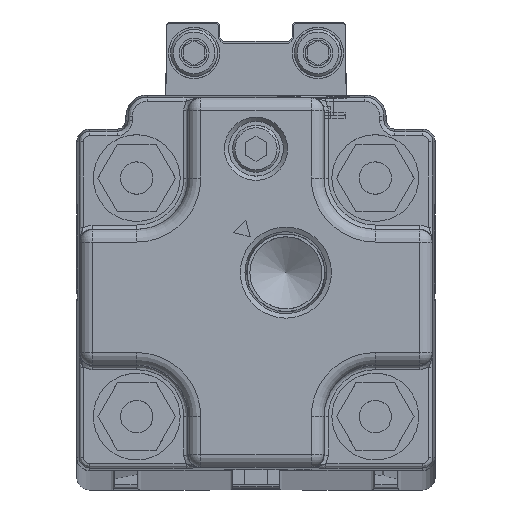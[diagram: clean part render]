
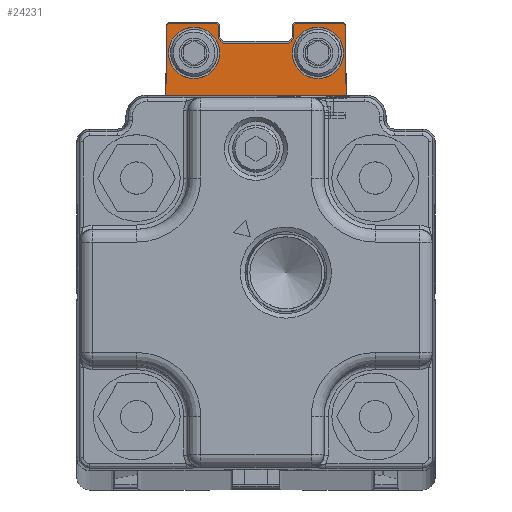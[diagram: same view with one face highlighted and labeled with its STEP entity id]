
A CAD part, top view. The second image highlights one B-rep face of the part: STEP entity #24231.
In plain terms, the highlighted planar face has unit normal (0, 0, 1).
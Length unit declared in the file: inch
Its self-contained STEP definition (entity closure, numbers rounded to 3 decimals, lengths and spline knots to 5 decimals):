
#328 = VECTOR ( 'NONE', #7700, 39.37008 ) ;
#692 = VECTOR ( 'NONE', #1107, 39.37008 ) ;
#1107 = DIRECTION ( 'NONE',  ( -1., 0., 0. ) ) ;
#1412 = VERTEX_POINT ( 'NONE', #11570 ) ;
#1528 = DIRECTION ( 'NONE',  ( 0., 1., 0. ) ) ;
#1633 = CIRCLE ( 'NONE', #4540, 0.11811 ) ;
#1687 = ORIENTED_EDGE ( 'NONE', *, *, #2032, .T. ) ;
#1725 = EDGE_CURVE ( 'NONE', #11870, #16494, #24809, .T. ) ;
#1762 = CARTESIAN_POINT ( 'NONE',  ( -0.41339, 1.10709, 2.22441 ) ) ;
#1767 = CARTESIAN_POINT ( 'NONE',  ( 0.42001, 0.70803, 2.22441 ) ) ;
#1939 = CARTESIAN_POINT ( 'NONE',  ( -0.15157, 1.02441, 2.22441 ) ) ;
#1973 = DIRECTION ( 'NONE',  ( 0., 1., 0. ) ) ;
#1985 = FACE_BOUND ( 'NONE', #24879, .T. ) ;
#2032 = EDGE_CURVE ( 'NONE', #19159, #8237, #14730, .T. ) ;
#2219 = VECTOR ( 'NONE', #5500, 39.37008 ) ;
#2251 = EDGE_CURVE ( 'NONE', #12145, #9565, #4001, .T. ) ;
#2396 = CARTESIAN_POINT ( 'NONE',  ( -0.17126, 1.10709, 2.22441 ) ) ;
#3063 = LINE ( 'NONE', #9270, #692 ) ;
#3098 = VERTEX_POINT ( 'NONE', #21838 ) ;
#3142 = DIRECTION ( 'NONE',  ( 1., 0., 0. ) ) ;
#3727 = VERTEX_POINT ( 'NONE', #15053 ) ;
#3804 = EDGE_CURVE ( 'NONE', #8237, #12145, #3063, .T. ) ;
#3810 = CARTESIAN_POINT ( 'NONE',  ( -0.40354, 1.11693, 2.22441 ) ) ;
#4001 = LINE ( 'NONE', #19870, #10480 ) ;
#4052 = CARTESIAN_POINT ( 'NONE',  ( 0.43307, 0.70853, 2.22441 ) ) ;
#4446 = EDGE_CURVE ( 'NONE', #8918, #19159, #24750, .T. ) ;
#4457 = VERTEX_POINT ( 'NONE', #17030 ) ;
#4540 = AXIS2_PLACEMENT_3D ( 'NONE', #24667, #22755, #3142 ) ;
#4580 = DIRECTION ( 'NONE',  ( 0.707, 0.707, 0. ) ) ;
#4720 = ORIENTED_EDGE ( 'NONE', *, *, #14347, .F. ) ;
#4753 = EDGE_LOOP ( 'NONE', ( #10988 ) ) ;
#5500 = DIRECTION ( 'NONE',  ( 0.707, -0.707, 0. ) ) ;
#5776 = VECTOR ( 'NONE', #23435, 39.37008 ) ;
#6088 = CARTESIAN_POINT ( 'NONE',  ( 0.43307, 1.11693, 2.22441 ) ) ;
#6154 = DIRECTION ( 'NONE',  ( -0.707, 0.707, 0. ) ) ;
#6278 = DIRECTION ( 'NONE',  ( 0.038, 0.999, 0. ) ) ;
#6377 = PLANE ( 'NONE',  #10316 ) ;
#6504 = EDGE_CURVE ( 'NONE', #24049, #20275, #19448, .T. ) ;
#7009 = CARTESIAN_POINT ( 'NONE',  ( 0.17126, 1.10709, 2.22441 ) ) ;
#7013 = EDGE_CURVE ( 'NONE', #20152, #20152, #15620, .T. ) ;
#7149 = VECTOR ( 'NONE', #6278, 39.37008 ) ;
#7161 = CARTESIAN_POINT ( 'NONE',  ( 0.17126, 1.04409, 2.22441 ) ) ;
#7393 = EDGE_CURVE ( 'NONE', #17120, #3727, #12195, .T. ) ;
#7566 = LINE ( 'NONE', #11320, #2219 ) ;
#7572 = CARTESIAN_POINT ( 'NONE',  ( -0.28543, 0.97913, 2.22441 ) ) ;
#7577 = CARTESIAN_POINT ( 'NONE',  ( 0.40354, 1.11693, 2.22441 ) ) ;
#7681 = CARTESIAN_POINT ( 'NONE',  ( 0.41339, 1.10709, 2.22441 ) ) ;
#7700 = DIRECTION ( 'NONE',  ( -1., 0., 0. ) ) ;
#7751 = DIRECTION ( 'NONE',  ( -0.707, -0.707, 0. ) ) ;
#7968 = LINE ( 'NONE', #1767, #10128 ) ;
#8237 = VERTEX_POINT ( 'NONE', #7577 ) ;
#8249 = ORIENTED_EDGE ( 'NONE', *, *, #7393, .F. ) ;
#8482 = LINE ( 'NONE', #2396, #12904 ) ;
#8918 = VERTEX_POINT ( 'NONE', #16970 ) ;
#8944 = DIRECTION ( 'NONE',  ( -0.707, 0.707, 0. ) ) ;
#9270 = CARTESIAN_POINT ( 'NONE',  ( 0.43307, 1.11693, 2.22441 ) ) ;
#9381 = DIRECTION ( 'NONE',  ( 1., 0., 0. ) ) ;
#9470 = DIRECTION ( 'NONE',  ( 0., 1., 0. ) ) ;
#9475 = VECTOR ( 'NONE', #14243, 39.37008 ) ;
#9513 = DIRECTION ( 'NONE',  ( 0., 0., 1. ) ) ;
#9565 = VERTEX_POINT ( 'NONE', #7009 ) ;
#9833 = DIRECTION ( 'NONE',  ( 1., 0., 0. ) ) ;
#9972 = CARTESIAN_POINT ( 'NONE',  ( -0.17126, 1.10709, 2.22441 ) ) ;
#10028 = CARTESIAN_POINT ( 'NONE',  ( 0.43307, 0.70853, 2.22441 ) ) ;
#10093 = ORIENTED_EDGE ( 'NONE', *, *, #2251, .T. ) ;
#10128 = VECTOR ( 'NONE', #17510, 39.37008 ) ;
#10165 = CARTESIAN_POINT ( 'NONE',  ( 0.15157, 1.02441, 2.22441 ) ) ;
#10285 = CARTESIAN_POINT ( 'NONE',  ( -0.41874, 0.7412, 2.22441 ) ) ;
#10316 = AXIS2_PLACEMENT_3D ( 'NONE', #4052, #11805, #14237 ) ;
#10392 = FACE_BOUND ( 'NONE', #4753, .T. ) ;
#10480 = VECTOR ( 'NONE', #7751, 39.37008 ) ;
#10783 = EDGE_CURVE ( 'NONE', #16609, #3098, #24314, .T. ) ;
#10988 = ORIENTED_EDGE ( 'NONE', *, *, #24376, .F. ) ;
#11320 = CARTESIAN_POINT ( 'NONE',  ( -0.15157, 1.02441, 2.22441 ) ) ;
#11405 = LINE ( 'NONE', #17328, #25391 ) ;
#11570 = CARTESIAN_POINT ( 'NONE',  ( -0.15157, 1.02441, 2.22441 ) ) ;
#11760 = VERTEX_POINT ( 'NONE', #13801 ) ;
#11793 = LINE ( 'NONE', #19911, #20950 ) ;
#11805 = DIRECTION ( 'NONE',  ( 0., 0., -1. ) ) ;
#11870 = VERTEX_POINT ( 'NONE', #10165 ) ;
#12064 = VECTOR ( 'NONE', #4580, 39.37008 ) ;
#12145 = VERTEX_POINT ( 'NONE', #19174 ) ;
#12195 = LINE ( 'NONE', #20050, #9475 ) ;
#12316 = ORIENTED_EDGE ( 'NONE', *, *, #15281, .F. ) ;
#12668 = VECTOR ( 'NONE', #9833, 39.37008 ) ;
#12823 = ORIENTED_EDGE ( 'NONE', *, *, #23798, .T. ) ;
#12904 = VECTOR ( 'NONE', #6154, 39.37008 ) ;
#13124 = ORIENTED_EDGE ( 'NONE', *, *, #15967, .F. ) ;
#13322 = CARTESIAN_POINT ( 'NONE',  ( -0.41339, 1.10709, 2.22441 ) ) ;
#13467 = EDGE_CURVE ( 'NONE', #14897, #8918, #7968, .T. ) ;
#13492 = CARTESIAN_POINT ( 'NONE',  ( 0.41999, 0.70853, 2.22441 ) ) ;
#13566 = LINE ( 'NONE', #6088, #18067 ) ;
#13801 = CARTESIAN_POINT ( 'NONE',  ( 0.40354, 0.97913, 2.22441 ) ) ;
#13984 = ORIENTED_EDGE ( 'NONE', *, *, #16732, .F. ) ;
#14032 = ORIENTED_EDGE ( 'NONE', *, *, #13467, .T. ) ;
#14237 = DIRECTION ( 'NONE',  ( -1., 0., 0. ) ) ;
#14243 = DIRECTION ( 'NONE',  ( 0., -1., 0. ) ) ;
#14347 = EDGE_CURVE ( 'NONE', #3098, #20275, #11405, .T. ) ;
#14730 = LINE ( 'NONE', #20666, #19507 ) ;
#14897 = VERTEX_POINT ( 'NONE', #13492 ) ;
#15053 = CARTESIAN_POINT ( 'NONE',  ( -0.17126, 1.04409, 2.22441 ) ) ;
#15281 = EDGE_CURVE ( 'NONE', #1412, #11870, #18057, .T. ) ;
#15504 = DIRECTION ( 'NONE',  ( -1., 0., 0. ) ) ;
#15620 = CIRCLE ( 'NONE', #19805, 0.11811 ) ;
#15694 = ORIENTED_EDGE ( 'NONE', *, *, #6504, .T. ) ;
#15967 = EDGE_CURVE ( 'NONE', #14897, #16609, #21872, .T. ) ;
#16179 = FACE_OUTER_BOUND ( 'NONE', #25474, .T. ) ;
#16291 = CARTESIAN_POINT ( 'NONE',  ( 0.17126, 1.04409, 2.22441 ) ) ;
#16494 = VERTEX_POINT ( 'NONE', #16291 ) ;
#16609 = VERTEX_POINT ( 'NONE', #22609 ) ;
#16732 = EDGE_CURVE ( 'NONE', #16494, #9565, #11793, .T. ) ;
#16970 = CARTESIAN_POINT ( 'NONE',  ( 0.41339, 0.88071, 2.22441 ) ) ;
#17030 = CARTESIAN_POINT ( 'NONE',  ( -0.1811, 1.11693, 2.22441 ) ) ;
#17120 = VERTEX_POINT ( 'NONE', #9972 ) ;
#17328 = CARTESIAN_POINT ( 'NONE',  ( -0.41339, 0.70853, 2.22441 ) ) ;
#17510 = DIRECTION ( 'NONE',  ( -0.038, 0.999, 0. ) ) ;
#18057 = LINE ( 'NONE', #1939, #12668 ) ;
#18067 = VECTOR ( 'NONE', #15504, 39.37008 ) ;
#18224 = CARTESIAN_POINT ( 'NONE',  ( -0.16732, 0.97913, 2.22441 ) ) ;
#18441 = EDGE_CURVE ( 'NONE', #4457, #24049, #13566, .T. ) ;
#18830 = CARTESIAN_POINT ( 'NONE',  ( 0.41339, 0.70853, 2.22441 ) ) ;
#18853 = VECTOR ( 'NONE', #1528, 39.37008 ) ;
#19098 = ORIENTED_EDGE ( 'NONE', *, *, #10783, .F. ) ;
#19159 = VERTEX_POINT ( 'NONE', #7681 ) ;
#19174 = CARTESIAN_POINT ( 'NONE',  ( 0.1811, 1.11693, 2.22441 ) ) ;
#19448 = LINE ( 'NONE', #1762, #5776 ) ;
#19507 = VECTOR ( 'NONE', #8944, 39.37008 ) ;
#19805 = AXIS2_PLACEMENT_3D ( 'NONE', #7572, #9513, #9381 ) ;
#19870 = CARTESIAN_POINT ( 'NONE',  ( 0.1811, 1.11693, 2.22441 ) ) ;
#19911 = CARTESIAN_POINT ( 'NONE',  ( 0.17126, 1.11693, 2.22441 ) ) ;
#20050 = CARTESIAN_POINT ( 'NONE',  ( -0.17126, 1.11693, 2.22441 ) ) ;
#20152 = VERTEX_POINT ( 'NONE', #18224 ) ;
#20275 = VERTEX_POINT ( 'NONE', #13322 ) ;
#20666 = CARTESIAN_POINT ( 'NONE',  ( 0.40354, 1.11693, 2.22441 ) ) ;
#20950 = VECTOR ( 'NONE', #1973, 39.37008 ) ;
#21079 = ORIENTED_EDGE ( 'NONE', *, *, #24020, .F. ) ;
#21772 = ORIENTED_EDGE ( 'NONE', *, *, #4446, .T. ) ;
#21838 = CARTESIAN_POINT ( 'NONE',  ( -0.41339, 0.88071, 2.22441 ) ) ;
#21872 = LINE ( 'NONE', #10028, #328 ) ;
#22390 = ORIENTED_EDGE ( 'NONE', *, *, #1725, .F. ) ;
#22609 = CARTESIAN_POINT ( 'NONE',  ( -0.41999, 0.70853, 2.22441 ) ) ;
#22755 = DIRECTION ( 'NONE',  ( 0., 0., 1. ) ) ;
#22772 = ORIENTED_EDGE ( 'NONE', *, *, #3804, .T. ) ;
#23435 = DIRECTION ( 'NONE',  ( -0.707, -0.707, 0. ) ) ;
#23798 = EDGE_CURVE ( 'NONE', #17120, #4457, #8482, .T. ) ;
#23990 = ORIENTED_EDGE ( 'NONE', *, *, #18441, .T. ) ;
#24020 = EDGE_CURVE ( 'NONE', #3727, #1412, #7566, .T. ) ;
#24049 = VERTEX_POINT ( 'NONE', #3810 ) ;
#24231 = ADVANCED_FACE ( 'NONE', ( #10392, #1985, #16179 ), #6377, .F. ) ;
#24314 = LINE ( 'NONE', #10285, #7149 ) ;
#24376 = EDGE_CURVE ( 'NONE', #11760, #11760, #1633, .T. ) ;
#24667 = CARTESIAN_POINT ( 'NONE',  ( 0.28543, 0.97913, 2.22441 ) ) ;
#24750 = LINE ( 'NONE', #18830, #18853 ) ;
#24809 = LINE ( 'NONE', #7161, #12064 ) ;
#24879 = EDGE_LOOP ( 'NONE', ( #24886 ) ) ;
#24886 = ORIENTED_EDGE ( 'NONE', *, *, #7013, .F. ) ;
#25391 = VECTOR ( 'NONE', #9470, 39.37008 ) ;
#25474 = EDGE_LOOP ( 'NONE', ( #21772, #1687, #22772, #10093, #13984, #22390, #12316, #21079, #8249, #12823, #23990, #15694, #4720, #19098, #13124, #14032 ) ) ;
